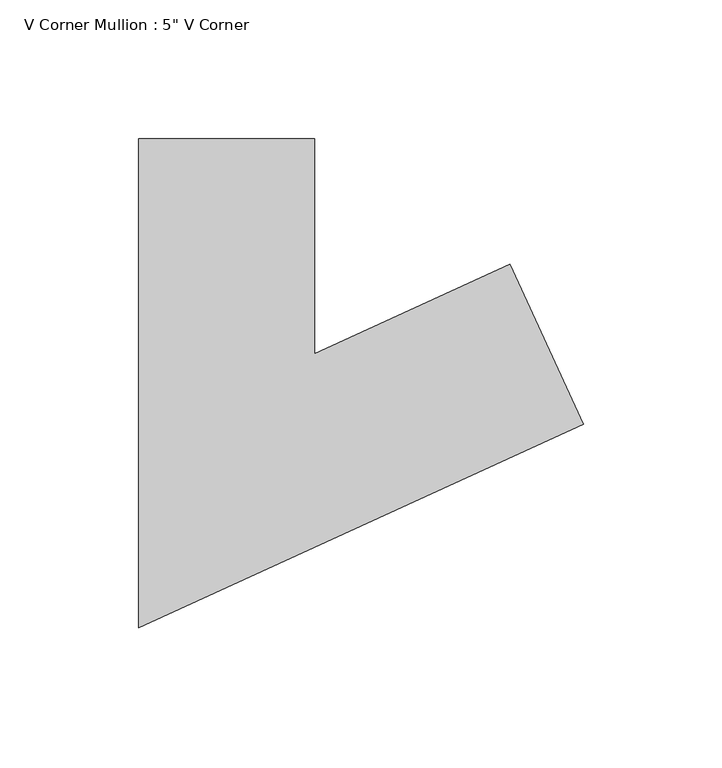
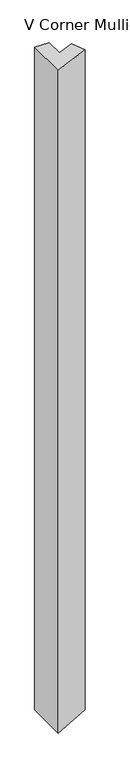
"""IFC4 building model written with IfcOpenShell, lengths in millimetres: member geometry."""

from ifc_helpers import new_model, si_unit, origin, place, context, project, spatial, faceted_brep, source, transform, mapped, element, save


def member_508da999(model_context):
    return source(origin(), model_context, "Body", "Brep", [
        faceted_brep([(61.49523, 18.2208415, -2.2180763), (87.9205542, -39.5195451, -3.1712134), (87.9205542, -39.5195451, -3045.056177), (61.49523, 18.2208415, -3046.0101655), (-9.0228811, -14.0523047, 0.325447), (-9.0228811, -14.0523047, -3048.5559608), (-9.0228811, 63.5, 0.325447), (-9.0228811, 63.5, -3048.5559608), (-72.5228811, 63.5, 2.6158336), (-72.5228811, 63.5, -3050.8483932), (-72.5228811, -112.9476953, 2.6158336), (-72.5228811, -112.9476953, -3050.8483932)], [[[0, 1, 2, 3]], [[4, 0, 3, 5]], [[6, 4, 5, 7]], [[8, 6, 7, 9]], [[10, 8, 9, 11]], [[1, 10, 11, 2]], [[1, 0, 4, 6, 8, 10]], [[2, 11, 9, 7, 5, 3]]]),
    ])


if __name__ == "__main__":
    model = new_model("IFC4")
    model_context = context("Model", 3, world=origin())
    ifc_project = project(units=[si_unit("LENGTHUNIT", "METRE", prefix="MILLI")], contexts=[model_context])
    site = spatial("IfcSite", under=ifc_project)
    building = spatial("IfcBuilding", under=site)
    placement = place(None, origin())
    member_shape = member_508da999(model_context)
    element("IfcMember", 1, ObjectType="V Corner Mullion : 5\" V Corner", at=placement, inside=building, context=model_context, shape_type="MappedRepresentation", body=[
        mapped(member_shape, transform((0.0, 0.0, 0.0), x_axis=(1.0, 0.0, 0.0), y_axis=(0.0, 1.0, 0.0), z_axis=(0.0, 0.0, 1.0))),
    ])
    save(model, "model.ifc")
